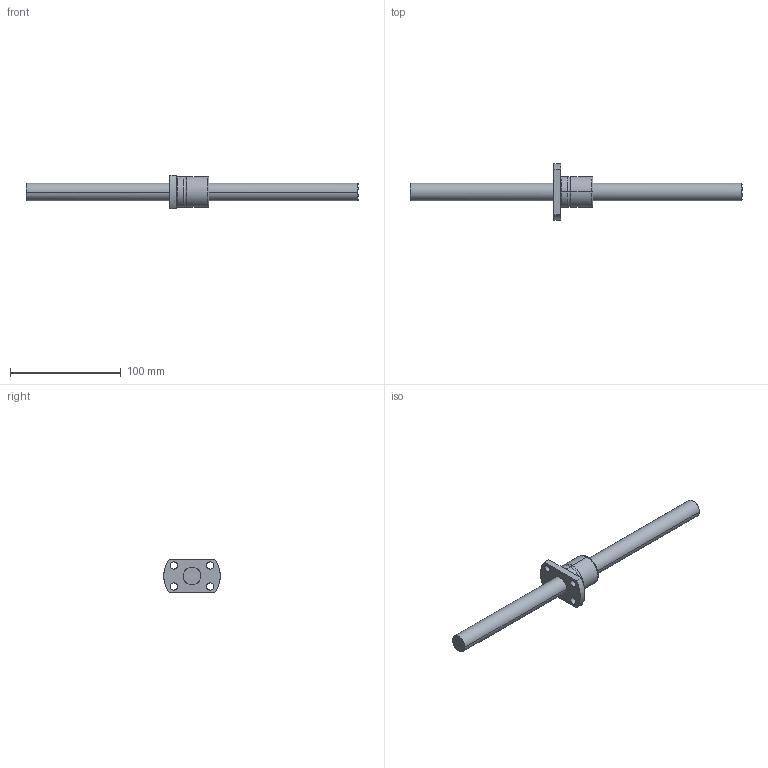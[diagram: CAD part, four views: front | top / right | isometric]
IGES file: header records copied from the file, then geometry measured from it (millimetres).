
Global section: file name: No Iges File Name specified; native system: AutoDesk Inventor R10; preprocessor: AutoDesk Inventor Iges Exporter R10; author: No Author specified; organization: No Organization specified; date: 20101224.154016; units: millimetre
Bounding box: 300 x 50.97 x 30 mm (x, y, z)
Surface area: 23352.3 mm2 (no closed solid volume)
Topology: 0 solids, 0 shells, 33 faces, 238 edges, 238 vertices
Faces by surface type: bspline 33
